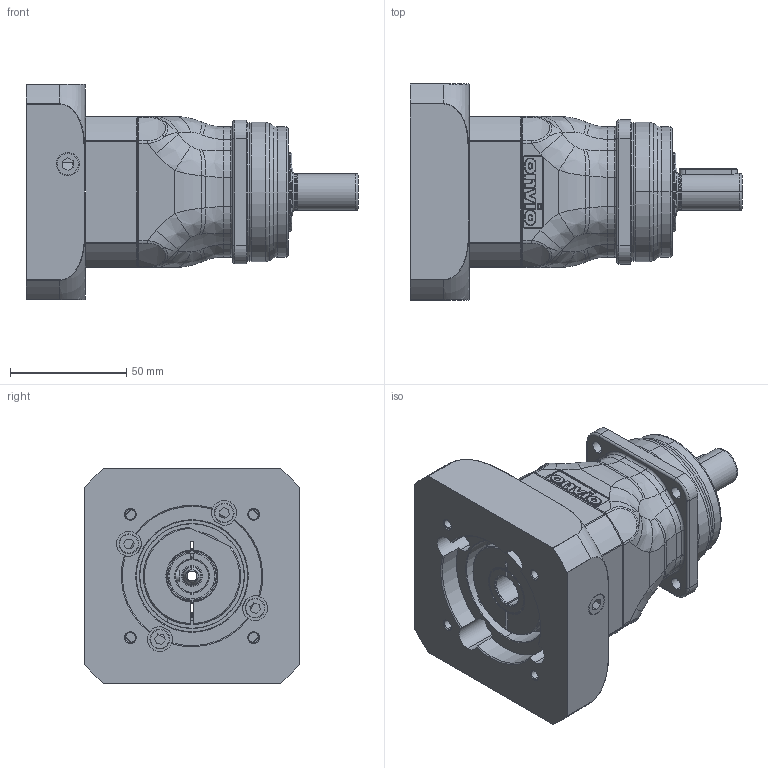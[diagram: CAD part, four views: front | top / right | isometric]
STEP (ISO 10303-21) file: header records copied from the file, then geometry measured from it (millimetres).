
FILE_DESCRIPTION (( 'STEP AP214' ), '1' );
FILE_NAME ('AH-010-0RR-FFF-MMM-S-LL-XXX-BXX-0000.STEP', '2019-10-11T20:25:21', ( '' ), ( '' ), 'SwSTEP 2.0', 'SolidWorks 2019', '' );
FILE_SCHEMA (( 'AUTOMOTIVE_DESIGN' ));
Length unit declared in the file: millimetre
Products named in the file (1): AH-010-0RR-FFF-MMM-S-LL-XXX-BXX-0000
Bounding box: 143 x 93 x 93 mm (x, y, z)
Surface area: 61703.1 mm2 (no closed solid volume)
Topology: 0 solids, 78 shells, 860 faces, 3636 edges, 2790 vertices
Faces by surface type: cylinder 292, plane 230, torus 172, bspline 90, cone 76
Entity records: 57919 total; most frequent: CARTESIAN_POINT 21013, DIRECTION 5198, ORIENTED_EDGE 5113, EDGE_CURVE 3626, VERTEX_POINT 2790, AXIS2_PLACEMENT_3D 1835, LINE 1528, VECTOR 1528
